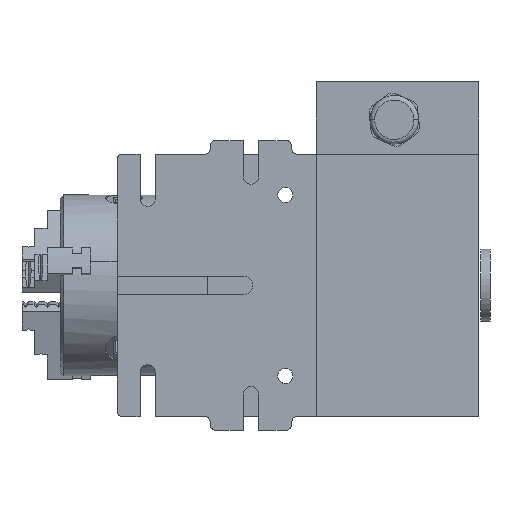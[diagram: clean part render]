
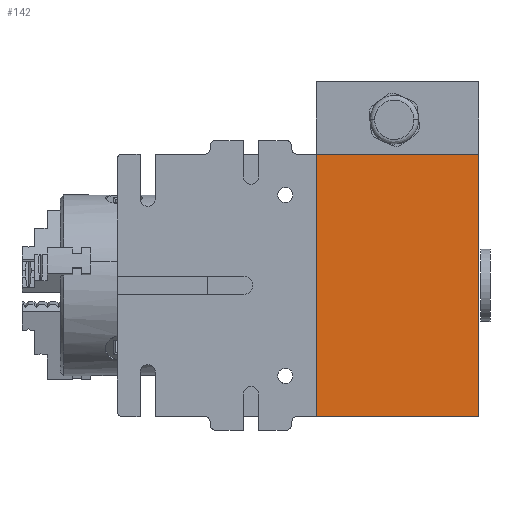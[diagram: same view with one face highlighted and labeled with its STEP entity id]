
A CAD part, front view. The second image highlights one B-rep face of the part: STEP entity #142.
In plain terms, the highlighted planar face has unit normal (0, -1, 0) as drawn and (0, 0, 1) by its records, which use the part's own axes.
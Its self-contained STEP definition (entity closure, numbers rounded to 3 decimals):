
#142 = ADVANCED_FACE ( 'NONE', ( #5467 ), #5699, .T. ) ;
#324 = CARTESIAN_POINT ( 'NONE',  ( -110.857, -164.244, -3. ) ) ;
#588 = VERTEX_POINT ( 'NONE', #6630 ) ;
#780 = ORIENTED_EDGE ( 'NONE', *, *, #833, .F. ) ;
#833 = EDGE_CURVE ( 'NONE', #4133, #2114, #2175, .T. ) ;
#867 = DIRECTION ( 'NONE',  ( -1., 0., 0. ) ) ;
#955 = AXIS2_PLACEMENT_3D ( 'NONE', #10843, #12895, #6735 ) ;
#2114 = VERTEX_POINT ( 'NONE', #2479 ) ;
#2175 = LINE ( 'NONE', #7088, #7725 ) ;
#2420 = VECTOR ( 'NONE', #4513, 1000. ) ;
#2479 = CARTESIAN_POINT ( 'NONE',  ( -200.857, -164.244, -3. ) ) ;
#2867 = CARTESIAN_POINT ( 'NONE',  ( -100.357, -19.244, -3. ) ) ;
#2964 = EDGE_CURVE ( 'NONE', #2114, #12486, #6687, .T. ) ;
#3184 = CARTESIAN_POINT ( 'NONE',  ( -200.857, -19.244, -3. ) ) ;
#3597 = ORIENTED_EDGE ( 'NONE', *, *, #10040, .F. ) ;
#3920 = VECTOR ( 'NONE', #8672, 1000. ) ;
#3940 = DIRECTION ( 'NONE',  ( 1., 0., 0. ) ) ;
#4043 = VECTOR ( 'NONE', #3940, 1000. ) ;
#4133 = VERTEX_POINT ( 'NONE', #324 ) ;
#4513 = DIRECTION ( 'NONE',  ( 0., 1., 0. ) ) ;
#5467 = FACE_OUTER_BOUND ( 'NONE', #8776, .T. ) ;
#5699 = PLANE ( 'NONE',  #955 ) ;
#6612 = CARTESIAN_POINT ( 'NONE',  ( -200.857, 0., -3. ) ) ;
#6630 = CARTESIAN_POINT ( 'NONE',  ( -110.857, -19.244, -3. ) ) ;
#6638 = ORIENTED_EDGE ( 'NONE', *, *, #9272, .T. ) ;
#6687 = LINE ( 'NONE', #6612, #3920 ) ;
#6735 = DIRECTION ( 'NONE',  ( 1., 0., 0. ) ) ;
#6804 = LINE ( 'NONE', #2867, #4043 ) ;
#7088 = CARTESIAN_POINT ( 'NONE',  ( -110.857, -164.244, -3. ) ) ;
#7725 = VECTOR ( 'NONE', #867, 1000. ) ;
#8672 = DIRECTION ( 'NONE',  ( 0., 1., 0. ) ) ;
#8776 = EDGE_LOOP ( 'NONE', ( #12201, #780, #6638, #3597 ) ) ;
#9272 = EDGE_CURVE ( 'NONE', #4133, #588, #10388, .T. ) ;
#9720 = CARTESIAN_POINT ( 'NONE',  ( -110.857, -164.244, -3. ) ) ;
#10040 = EDGE_CURVE ( 'NONE', #12486, #588, #6804, .T. ) ;
#10388 = LINE ( 'NONE', #9720, #2420 ) ;
#10843 = CARTESIAN_POINT ( 'NONE',  ( 122.358, -164.244, -3. ) ) ;
#12201 = ORIENTED_EDGE ( 'NONE', *, *, #2964, .F. ) ;
#12486 = VERTEX_POINT ( 'NONE', #3184 ) ;
#12895 = DIRECTION ( 'NONE',  ( 0., 0., 1. ) ) ;
